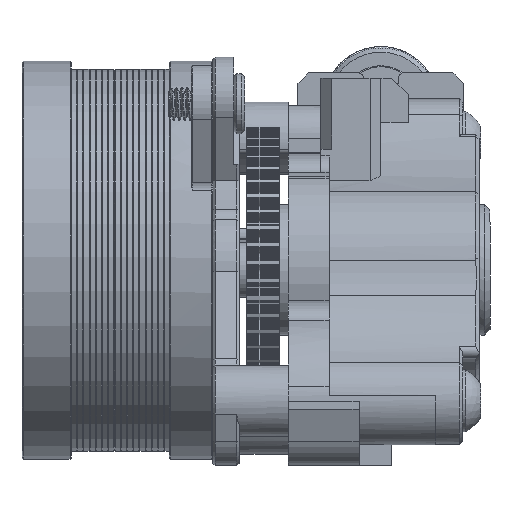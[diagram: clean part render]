
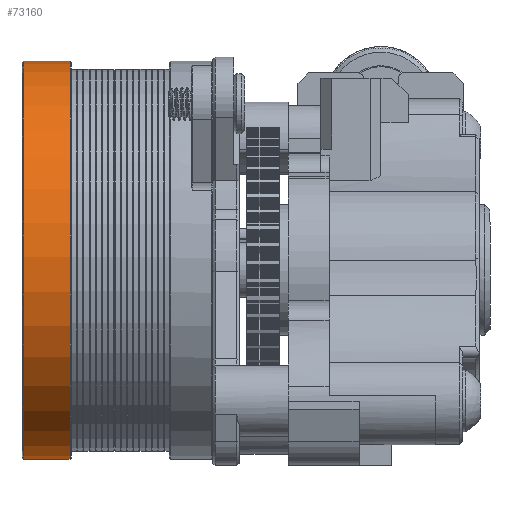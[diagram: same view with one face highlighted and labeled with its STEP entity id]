
A CAD part, left-side view. The second image highlights one B-rep face of the part: STEP entity #73160.
In plain terms, the highlighted cylindrical face has radius 18.25 mm (diameter 36.5 mm), a full revolution.
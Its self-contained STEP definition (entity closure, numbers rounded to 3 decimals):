
#4494=FACE_OUTER_BOUND('',#8390,.T.);
#8390=EDGE_LOOP('',(#54678,#54679,#54680,#54681,#54682));
#12007=CIRCLE('',#77746,18.25);
#12009=CIRCLE('',#77748,18.25);
#12011=CIRCLE('',#77752,18.25);
#15465=LINE('',#187817,#23539);
#23539=VECTOR('',#85950,18.25);
#32710=VERTEX_POINT('',#187804);
#32711=VERTEX_POINT('',#187805);
#32714=VERTEX_POINT('',#187816);
#41045=EDGE_CURVE('',#32710,#32711,#12007,.T.);
#41048=EDGE_CURVE('',#32711,#32710,#12009,.T.);
#41051=EDGE_CURVE('',#32710,#32714,#15465,.T.);
#41052=EDGE_CURVE('',#32714,#32714,#12011,.T.);
#54678=ORIENTED_EDGE('',*,*,#41045,.F.);
#54679=ORIENTED_EDGE('',*,*,#41051,.T.);
#54680=ORIENTED_EDGE('',*,*,#41052,.T.);
#54681=ORIENTED_EDGE('',*,*,#41051,.F.);
#54682=ORIENTED_EDGE('',*,*,#41048,.F.);
#71846=CYLINDRICAL_SURFACE('',#77751,18.25);
#73160=ADVANCED_FACE('',(#4494),#71846,.T.);
#77746=AXIS2_PLACEMENT_3D('',#187806,#85936,#85937);
#77748=AXIS2_PLACEMENT_3D('',#187810,#85941,#85942);
#77751=AXIS2_PLACEMENT_3D('',#187815,#85948,#85949);
#77752=AXIS2_PLACEMENT_3D('',#187818,#85951,#85952);
#85936=DIRECTION('center_axis',(0.,1.,0.));
#85937=DIRECTION('ref_axis',(0.756,0.,-0.654));
#85941=DIRECTION('center_axis',(0.,1.,0.));
#85942=DIRECTION('ref_axis',(0.756,0.,-0.654));
#85948=DIRECTION('center_axis',(0.,1.,0.));
#85949=DIRECTION('ref_axis',(0.756,0.,-0.654));
#85950=DIRECTION('',(0.,-1.,0.));
#85951=DIRECTION('center_axis',(0.,1.,0.));
#85952=DIRECTION('ref_axis',(0.756,0.,-0.654));
#187804=CARTESIAN_POINT('',(0.692,18.55,12.82));
#187805=CARTESIAN_POINT('',(28.292,18.55,-11.065));
#187806=CARTESIAN_POINT('Origin',(14.492,18.55,0.878));
#187810=CARTESIAN_POINT('Origin',(14.492,18.55,0.878));
#187815=CARTESIAN_POINT('Origin',(14.492,1.15,0.878));
#187816=CARTESIAN_POINT('',(0.692,14.25,12.82));
#187817=CARTESIAN_POINT('',(0.692,1.15,12.82));
#187818=CARTESIAN_POINT('Origin',(14.492,14.25,0.878));
